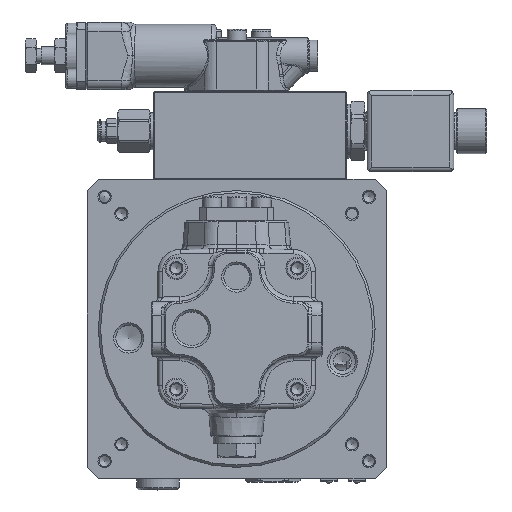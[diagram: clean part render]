
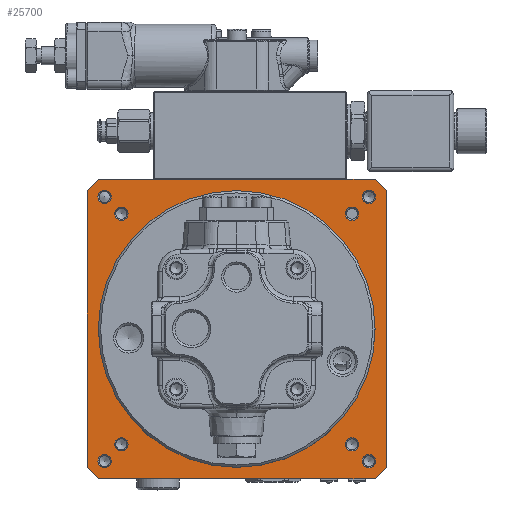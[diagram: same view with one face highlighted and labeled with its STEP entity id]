
A CAD part, top view. The second image highlights one B-rep face of the part: STEP entity #25700.
In plain terms, the highlighted planar face has unit normal (0, 0, 1).
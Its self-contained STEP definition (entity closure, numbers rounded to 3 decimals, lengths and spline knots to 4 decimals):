
#1769=FACE_BOUND('',#5568,.T.);
#1770=FACE_BOUND('',#5569,.T.);
#1771=FACE_BOUND('',#5570,.T.);
#1772=FACE_BOUND('',#5571,.T.);
#1773=FACE_BOUND('',#5572,.T.);
#1774=FACE_BOUND('',#5573,.T.);
#1775=FACE_BOUND('',#5574,.T.);
#1776=FACE_BOUND('',#5575,.T.);
#1777=FACE_BOUND('',#5576,.T.);
#2527=CIRCLE('',#27717,2.4213);
#2542=CIRCLE('',#27745,0.1165);
#2544=CIRCLE('',#27749,0.1165);
#2558=CIRCLE('',#27776,0.1165);
#2560=CIRCLE('',#27780,0.1165);
#2565=CIRCLE('',#27789,0.1165);
#2567=CIRCLE('',#27793,0.1165);
#2573=CIRCLE('',#27804,0.1165);
#2575=CIRCLE('',#27808,0.1165);
#4007=FACE_OUTER_BOUND('',#5567,.T.);
#5567=EDGE_LOOP('',(#21002,#21003,#21004,#21005,#21006,#21007,#21008,#21009));
#5568=EDGE_LOOP('',(#21010));
#5569=EDGE_LOOP('',(#21011));
#5570=EDGE_LOOP('',(#21012));
#5571=EDGE_LOOP('',(#21013));
#5572=EDGE_LOOP('',(#21014));
#5573=EDGE_LOOP('',(#21015));
#5574=EDGE_LOOP('',(#21016));
#5575=EDGE_LOOP('',(#21017));
#5576=EDGE_LOOP('',(#21018));
#7283=LINE('',#59626,#9004);
#7291=LINE('',#59642,#9012);
#7294=LINE('',#59648,#9015);
#7297=LINE('',#59654,#9018);
#7300=LINE('',#59669,#9021);
#7304=LINE('',#59677,#9025);
#7349=LINE('',#59875,#9070);
#7350=LINE('',#59876,#9071);
#9004=VECTOR('',#33100,0.3937);
#9012=VECTOR('',#33110,0.3937);
#9015=VECTOR('',#33115,0.3937);
#9018=VECTOR('',#33120,0.3937);
#9021=VECTOR('',#33133,0.3937);
#9025=VECTOR('',#33139,0.3937);
#9070=VECTOR('',#33368,0.3937);
#9071=VECTOR('',#33369,0.3937);
#11123=VERTEX_POINT('',#59624);
#11124=VERTEX_POINT('',#59625);
#11131=VERTEX_POINT('',#59641);
#11133=VERTEX_POINT('',#59647);
#11135=VERTEX_POINT('',#59653);
#11141=VERTEX_POINT('',#59667);
#11142=VERTEX_POINT('',#59668);
#11145=VERTEX_POINT('',#59676);
#11147=VERTEX_POINT('',#59682);
#11165=VERTEX_POINT('',#59739);
#11167=VERTEX_POINT('',#59747);
#11190=VERTEX_POINT('',#59810);
#11192=VERTEX_POINT('',#59818);
#11197=VERTEX_POINT('',#59836);
#11199=VERTEX_POINT('',#59844);
#11205=VERTEX_POINT('',#59867);
#11207=VERTEX_POINT('',#59877);
#14441=EDGE_CURVE('',#11123,#11124,#7283,.T.);
#14449=EDGE_CURVE('',#11124,#11131,#7291,.T.);
#14452=EDGE_CURVE('',#11133,#11123,#7294,.T.);
#14455=EDGE_CURVE('',#11131,#11135,#7297,.T.);
#14462=EDGE_CURVE('',#11141,#11142,#7300,.T.);
#14466=EDGE_CURVE('',#11135,#11145,#7304,.T.);
#14469=EDGE_CURVE('',#11147,#11147,#2527,.T.);
#14495=EDGE_CURVE('',#11165,#11165,#2542,.T.);
#14499=EDGE_CURVE('',#11167,#11167,#2544,.T.);
#14526=EDGE_CURVE('',#11190,#11190,#2558,.T.);
#14530=EDGE_CURVE('',#11192,#11192,#2560,.T.);
#14539=EDGE_CURVE('',#11197,#11197,#2565,.T.);
#14543=EDGE_CURVE('',#11199,#11199,#2567,.T.);
#14555=EDGE_CURVE('',#11205,#11205,#2573,.T.);
#14559=EDGE_CURVE('',#11142,#11133,#7349,.T.);
#14560=EDGE_CURVE('',#11145,#11141,#7350,.T.);
#14561=EDGE_CURVE('',#11207,#11207,#2575,.T.);
#21002=ORIENTED_EDGE('',*,*,#14452,.F.);
#21003=ORIENTED_EDGE('',*,*,#14559,.F.);
#21004=ORIENTED_EDGE('',*,*,#14462,.F.);
#21005=ORIENTED_EDGE('',*,*,#14560,.F.);
#21006=ORIENTED_EDGE('',*,*,#14466,.F.);
#21007=ORIENTED_EDGE('',*,*,#14455,.F.);
#21008=ORIENTED_EDGE('',*,*,#14449,.F.);
#21009=ORIENTED_EDGE('',*,*,#14441,.F.);
#21010=ORIENTED_EDGE('',*,*,#14555,.F.);
#21011=ORIENTED_EDGE('',*,*,#14539,.F.);
#21012=ORIENTED_EDGE('',*,*,#14526,.F.);
#21013=ORIENTED_EDGE('',*,*,#14495,.F.);
#21014=ORIENTED_EDGE('',*,*,#14469,.F.);
#21015=ORIENTED_EDGE('',*,*,#14499,.F.);
#21016=ORIENTED_EDGE('',*,*,#14530,.F.);
#21017=ORIENTED_EDGE('',*,*,#14543,.F.);
#21018=ORIENTED_EDGE('',*,*,#14561,.F.);
#22900=PLANE('',#27807);
#25700=ADVANCED_FACE('',(#4007,#1769,#1770,#1771,#1772,#1773,#1774,#1775,
#1776,#1777),#22900,.T.);
#27717=AXIS2_PLACEMENT_3D('',#59683,#33144,#33145);
#27745=AXIS2_PLACEMENT_3D('',#59740,#33211,#33212);
#27749=AXIS2_PLACEMENT_3D('',#59748,#33221,#33222);
#27776=AXIS2_PLACEMENT_3D('',#59811,#33288,#33289);
#27780=AXIS2_PLACEMENT_3D('',#59819,#33298,#33299);
#27789=AXIS2_PLACEMENT_3D('',#59837,#33320,#33321);
#27793=AXIS2_PLACEMENT_3D('',#59845,#33330,#33331);
#27804=AXIS2_PLACEMENT_3D('',#59868,#33358,#33359);
#27807=AXIS2_PLACEMENT_3D('',#59874,#33366,#33367);
#27808=AXIS2_PLACEMENT_3D('',#59878,#33370,#33371);
#33100=DIRECTION('',(1.,0.,0.));
#33110=DIRECTION('',(0.707,-0.707,0.));
#33115=DIRECTION('',(0.707,0.707,0.));
#33120=DIRECTION('',(0.,-1.,0.));
#33133=DIRECTION('',(-0.707,0.707,0.));
#33139=DIRECTION('',(-0.707,-0.707,0.));
#33144=DIRECTION('center_axis',(0.,0.,
1.));
#33145=DIRECTION('ref_axis',(-1.,0.,0.));
#33211=DIRECTION('center_axis',(0.,0.,
1.));
#33212=DIRECTION('ref_axis',(1.,0.,0.));
#33221=DIRECTION('center_axis',(0.,0.,
1.));
#33222=DIRECTION('ref_axis',(1.,0.,0.));
#33288=DIRECTION('center_axis',(0.,0.,
1.));
#33289=DIRECTION('ref_axis',(0.,1.,0.));
#33298=DIRECTION('center_axis',(0.,0.,
1.));
#33299=DIRECTION('ref_axis',(0.,1.,0.));
#33320=DIRECTION('center_axis',(0.,0.,
1.));
#33321=DIRECTION('ref_axis',(-1.,0.,0.));
#33330=DIRECTION('center_axis',(0.,0.,
1.));
#33331=DIRECTION('ref_axis',(-1.,0.,0.));
#33358=DIRECTION('center_axis',(0.,0.,
1.));
#33359=DIRECTION('ref_axis',(0.,-1.,0.));
#33366=DIRECTION('center_axis',(0.,0.,
1.));
#33367=DIRECTION('ref_axis',(1.,0.,0.));
#33368=DIRECTION('',(0.,1.,0.));
#33369=DIRECTION('',(-1.,0.,0.));
#33370=DIRECTION('center_axis',(0.,0.,
1.));
#33371=DIRECTION('ref_axis',(0.,-1.,0.));
#59624=CARTESIAN_POINT('',(-2.7605,2.6304,-1.6909));
#59625=CARTESIAN_POINT('',(2.082,2.6304,-1.6909));
#59626=CARTESIAN_POINT('',(-1.6483,2.6304,-1.6909));
#59641=CARTESIAN_POINT('',(2.2789,2.4335,-1.6909));
#59642=CARTESIAN_POINT('',(2.1805,2.5319,-1.6909));
#59647=CARTESIAN_POINT('',(-2.9573,2.4335,-1.6909));
#59648=CARTESIAN_POINT('',(-2.8589,2.5319,-1.6909));
#59653=CARTESIAN_POINT('',(2.2789,-2.409,-1.6909));
#59654=CARTESIAN_POINT('',(2.2789,1.3213,-1.6909));
#59667=CARTESIAN_POINT('',(-2.7605,-2.6059,-1.6909));
#59668=CARTESIAN_POINT('',(-2.9573,-2.409,-1.6909));
#59669=CARTESIAN_POINT('',(-2.8589,-2.5074,-1.6909));
#59676=CARTESIAN_POINT('',(2.082,-2.6059,-1.6909));
#59677=CARTESIAN_POINT('',(2.1805,-2.5074,-1.6909));
#59682=CARTESIAN_POINT('',(2.082,0.0123,-1.6909));
#59683=CARTESIAN_POINT('Origin',(-0.3392,0.0123,
-1.6909));
#59739=CARTESIAN_POINT('',(-2.4734,2.03,-1.6909));
#59740=CARTESIAN_POINT('Origin',(-2.3569,2.03,-1.6909));
#59747=CARTESIAN_POINT('',(-2.7687,2.3252,-1.6909));
#59748=CARTESIAN_POINT('Origin',(-2.6522,2.3252,-1.6909));
#59810=CARTESIAN_POINT('',(-2.3569,-2.1219,-1.6909));
#59811=CARTESIAN_POINT('Origin',(-2.3569,-2.0055,-1.6909));
#59818=CARTESIAN_POINT('',(-2.6522,-2.4172,-1.6909));
#59819=CARTESIAN_POINT('Origin',(-2.6522,-2.3007,-1.6909));
#59836=CARTESIAN_POINT('',(1.795,-2.0055,-1.6909));
#59837=CARTESIAN_POINT('Origin',(1.6785,-2.0055,-1.6909));
#59844=CARTESIAN_POINT('',(2.0903,-2.3007,-1.6909));
#59845=CARTESIAN_POINT('Origin',(1.9738,-2.3007,-1.6909));
#59867=CARTESIAN_POINT('',(1.6785,2.1464,-1.6909));
#59868=CARTESIAN_POINT('Origin',(1.6785,2.03,-1.6909));
#59874=CARTESIAN_POINT('Origin',(-0.3392,0.0123,
-1.6909));
#59875=CARTESIAN_POINT('',(-2.9573,-1.2968,-1.6909));
#59876=CARTESIAN_POINT('',(0.9698,-2.6059,-1.6909));
#59877=CARTESIAN_POINT('',(1.9738,2.4417,-1.6909));
#59878=CARTESIAN_POINT('Origin',(1.9738,2.3252,-1.6909));
